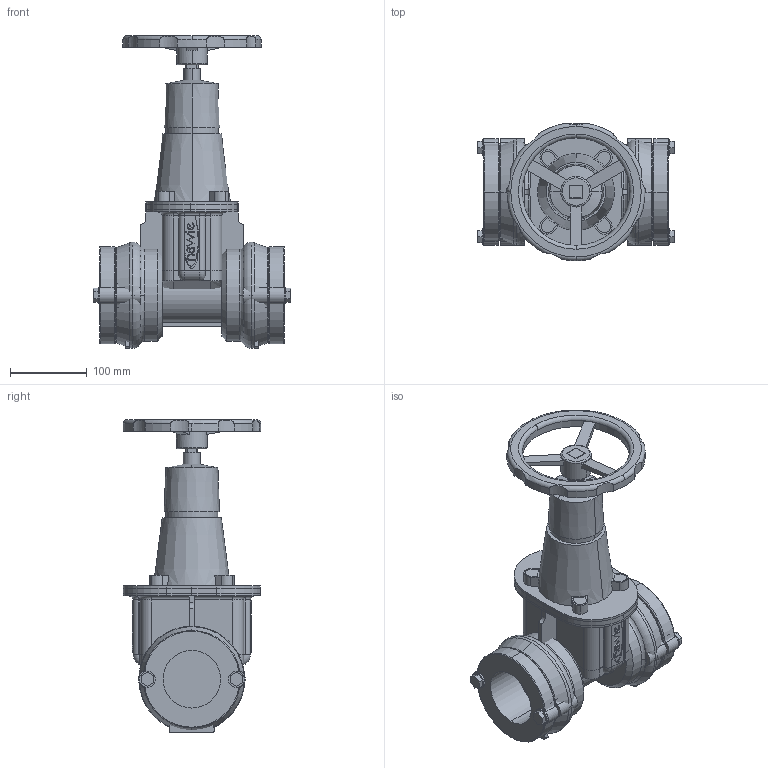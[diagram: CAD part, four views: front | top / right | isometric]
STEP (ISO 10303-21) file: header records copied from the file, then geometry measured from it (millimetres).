
FILE_DESCRIPTION(('STEP AP214'),'1');
FILE_NAME('S:/EK/USER/CAT6/3DHomepage/4040E2/4040E2-PN16-DN65-HANDRAD.STP','2012-04-24T10:46:03',(' '),(' '),'Spatial InterOp 3D',' ',' ');
FILE_SCHEMA(('automotive_design'));
Length unit declared in the file: millimetre
Products named in the file (86): 3D-Objekt; 1; 2
Bounding box: 256.8 x 179.47 x 407 mm (x, y, z)
Volume: 4170393.9 mm3; surface area: 610881.2 mm2
Topology: 86 solids, 86 shells, 731 faces, 1653 edges, 1102 vertices
Faces by surface type: plane 401, cylinder 268, torus 44, cone 14, bspline 4
Entity records: 28848 total; most frequent: DIRECTION 3967, CARTESIAN_POINT 3934, ORIENTED_EDGE 3306, EDGE_CURVE 1653, AXIS2_PLACEMENT_3D 1519, VERTEX_POINT 1102, LINE 929, VECTOR 929
